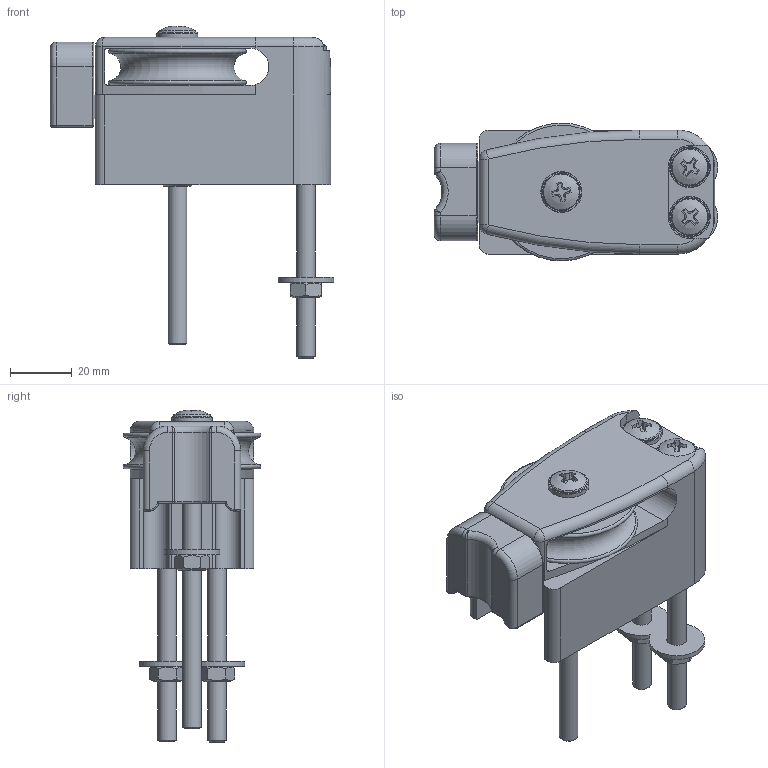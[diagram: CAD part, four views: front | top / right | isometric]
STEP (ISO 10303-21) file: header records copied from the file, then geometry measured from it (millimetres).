
FILE_DESCRIPTION(/* description */ (''),/* implementation_level */ '2;1');
FILE_NAME(/* name */ '\\SERVER2K12\Disegni CAD\Cad Library\3D - STP\Cars\4Race\4272.stp',/* time_stamp */ '2018-10-05T12:11:23+02:00',/* author */ ('francesca'),/* organization */ (''),/* preprocessor_version */ 'ST-DEVELOPER v16.5',/* originating_system */ 'Autodesk Inventor 2017',/* authorisation */ '');
FILE_SCHEMA (('AUTOMOTIVE_DESIGN { 1 0 10303 214 3 1 1 }'));
Length unit declared in the file: millimetre
Products named in the file (1): 18100507
Bounding box: 91.48 x 44.49 x 107.19 mm (x, y, z)
Volume: 104063.1 mm3; surface area: 39312.2 mm2
Topology: 1 solids, 2 shells, 307 faces, 748 edges, 494 vertices
Faces by surface type: plane 121, cylinder 77, sphere 55, cone 28, torus 20, bspline 6
Full cylindrical faces by diameter (mm): 6 x7, 6.2 x6, 6.4 x3, 6.5 x3, 10 x2, 12 x3, 13.2 x3, 18 x1
Entity records: 8463 total; most frequent: CARTESIAN_POINT 1863, DIRECTION 1421, ORIENTED_EDGE 1208, EDGE_CURVE 604, AXIS2_PLACEMENT_3D 591, EDGE_LOOP 445, VERTEX_POINT 431, FACE_OUTER_BOUND 307
